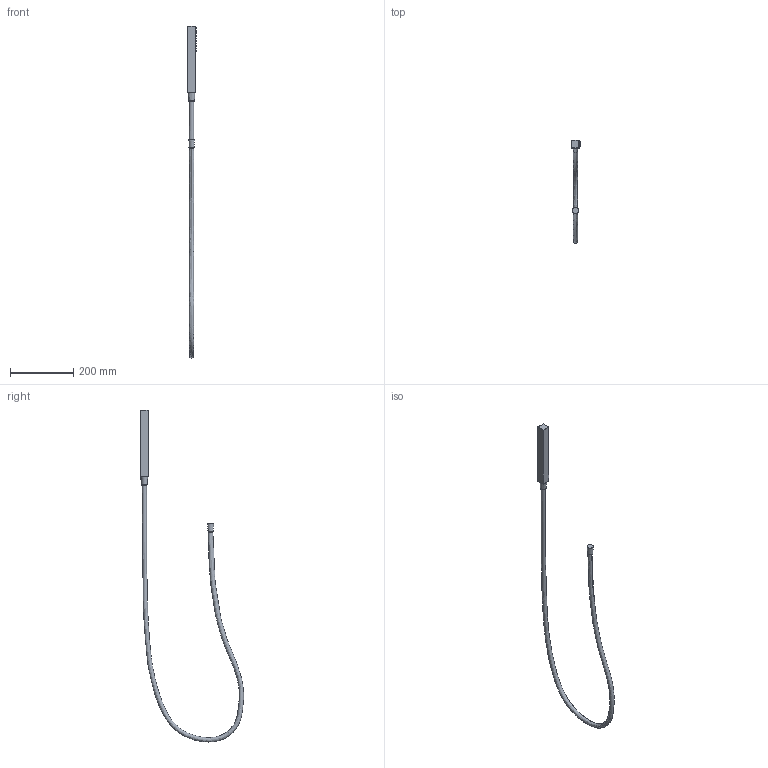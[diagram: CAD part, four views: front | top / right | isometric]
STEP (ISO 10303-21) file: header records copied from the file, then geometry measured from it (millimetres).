
FILE_DESCRIPTION(('STEP AP242'), '1');
FILE_NAME('82CR155', '', ('UNSPECIFIED'), ('UNSPECIFIED'), 'ASCON STEP Converter 1.6', 'ASCON Math Kernel', '');
FILE_SCHEMA(('AP242_MANAGED_MODEL_BASED_3D_ENGINEERING_MIM_LF { 1 0 10303 442 1 1 4 }'));
Length unit declared in the file: millimetre
Bounding box: 28 x 326.66 x 1050.85 mm (x, y, z)
Volume: 404194.6 mm3; surface area: 102432 mm2
Topology: 42 solids, 42 shells, 445 faces, 1053 edges, 688 vertices
Faces by surface type: plane 420, cylinder 12, sphere 8, cone 2, torus 2, bspline 1
Entity records: 16866 total; most frequent: CARTESIAN_POINT 2600, ORIENTED_EDGE 2080, DIRECTION 1962, EDGE_CURVE 1040, LINE 1008, VECTOR 1008, VERTEX_POINT 688, EDGE_LOOP 534
